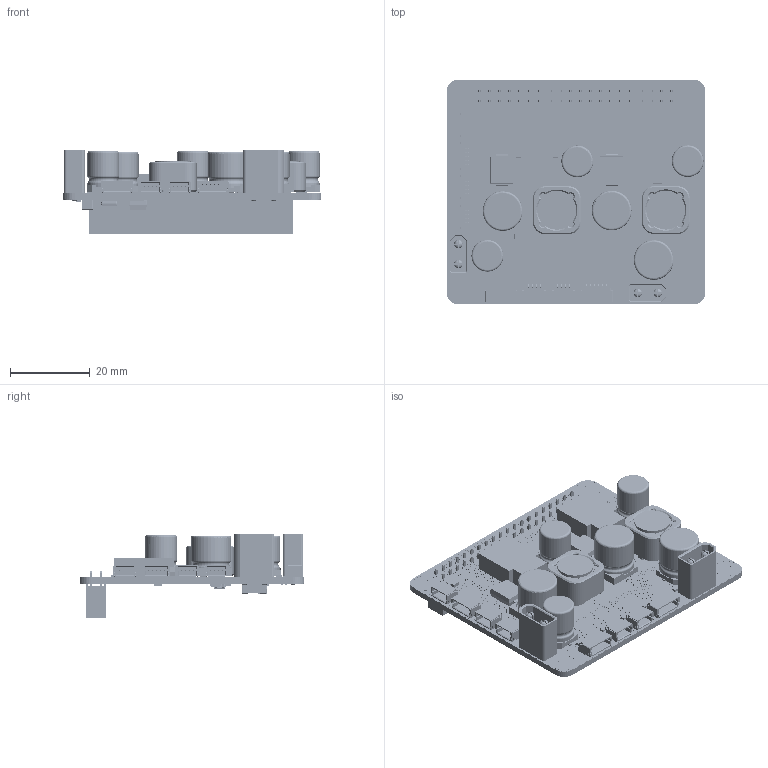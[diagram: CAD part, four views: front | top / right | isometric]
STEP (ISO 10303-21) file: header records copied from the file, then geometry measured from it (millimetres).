
FILE_DESCRIPTION(('STEP AP214'),'1');
FILE_NAME('RaspberryPi4DroneHAT.stp','2026-11-26T10:10:44',(' '),(' '),'Spatial InterOp 3D',' ',' ');
FILE_SCHEMA(('AUTOMOTIVE_DESIGN { 1 0 10303 214 1 1 1 1 }'));
Length unit declared in the file: millimetre
Products named in the file (217): SPI1; SM06B-SRSS-TB(LF)(SN); ComponentsTop; J4; J1; SM05B-SRSS-TB-LFS; J7; SM04B-SRSS-TB(LF)(SN); J6; UART5; J3; J2; C37; 50TZV220M10X10.5; C21; C10; C14; 35TZV220M8X10.5; C20; C26; C2; product; J10; XT30UPB-M; J9; D2; 5988130107F; D3; B540C-13-F; D1; L1; CDRH127_LDNP-470MC; L2; R1; ERJH2RD1000X; R4; R2; R5; NPTC202LFBN-RC; Pin - Tin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
Assembly tree (504 placements, depth 7):
  RaspberryPi4DroneHat_REV_A
    Components
      ComponentsTop
        SPI1
          SM06B-SRSS-TB(LF)(SN)
        J4
          SM06B-SRSS-TB(LF)(SN)
        J1
          SM05B-SRSS-TB-LFS
        J7
          SM04B-SRSS-TB(LF)(SN)
        J6
          SM04B-SRSS-TB(LF)(SN)
        UART5
          SM04B-SRSS-TB(LF)(SN)
        J3
          SM04B-SRSS-TB(LF)(SN)
        J2
          SM04B-SRSS-TB(LF)(SN)
        C37
          50TZV220M10X10.5
        C21
          50TZV220M10X10.5
        C10
          50TZV220M10X10.5
        C14
          35TZV220M8X10.5
        C20
          35TZV220M8X10.5
        C26
          35TZV220M8X10.5
        C2
          product
        J10
          XT30UPB-M
        J9
          XT30UPB-M
        D2
          5988130107F
        D3
          B540C-13-F
        D1
          B540C-13-F
        L1
          CDRH127_LDNP-470MC
        L2
          CDRH127_LDNP-470MC
        R1
          ERJH2RD1000X
        R4
          ERJH2RD1000X
        R2
          ERJH2RD1000X
        R5
          ERJH2RD1000X
        U1
          Female Header 2x20 2.54mm THT.STEP
            NPTC202LFBN-RC
              Pin - Tin  x20
              NPPC202LFBN-RC_C20
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Bounding box: 65 x 56.5 x 20.96 mm (x, y, z)
Volume: 16663.5 mm3; surface area: 35790 mm2
Topology: 617 solids, 737 shells, 14224 faces, 38382 edges, 25542 vertices
Faces by surface type: plane 9174, cylinder 4806, torus 110, cone 96, sphere 38
Entity records: 335640 total; most frequent: CARTESIAN_POINT 58112, DIRECTION 56568, ORIENTED_EDGE 56488, EDGE_CURVE 28308, LINE 21116, VECTOR 21116, VERTEX_POINT 18788, AXIS2_PLACEMENT_3D 17726
